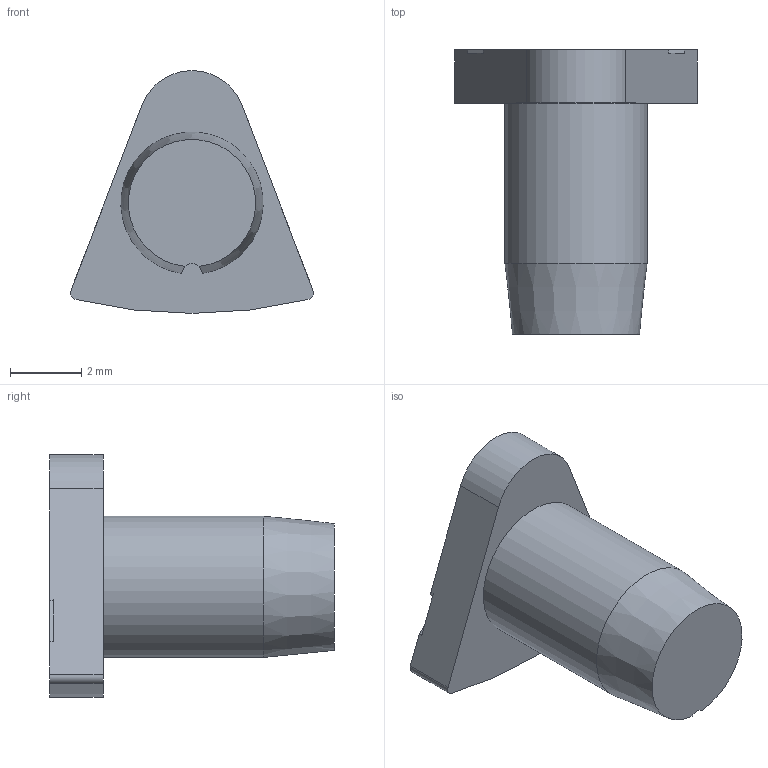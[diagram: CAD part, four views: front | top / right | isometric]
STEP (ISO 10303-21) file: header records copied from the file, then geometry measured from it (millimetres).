
FILE_DESCRIPTION((''),'2;1');
FILE_NAME('R412010377','2024-12-06T16:17:00',('GND7HC'),(''),'CREO PARAMETRIC BY PTC INC, 2023092','CREO PARAMETRIC BY PTC INC, 2023092','');
FILE_SCHEMA(('CONFIG_CONTROL_DESIGN','SHAPE_APPEARANCE_LAYERS_GROUPS'));
Length unit declared in the file: millimetre
Products named in the file (1): R412010377
Bounding box: 6.83 x 8 x 6.83 mm (x, y, z)
Volume: 123.6 mm3; surface area: 175 mm2
Topology: 1 solids, 1 shells, 20 faces, 51 edges, 34 vertices
Faces by surface type: plane 11, cylinder 8, cone 1
Entity records: 832 total; most frequent: CARTESIAN_POINT 115, DIRECTION 106, ORIENTED_EDGE 102, PRESENTATION_STYLE_ASSIGNMENT 52, STYLED_ITEM 52, CURVE_STYLE 51, EDGE_CURVE 51, AXIS2_PLACEMENT_3D 37
